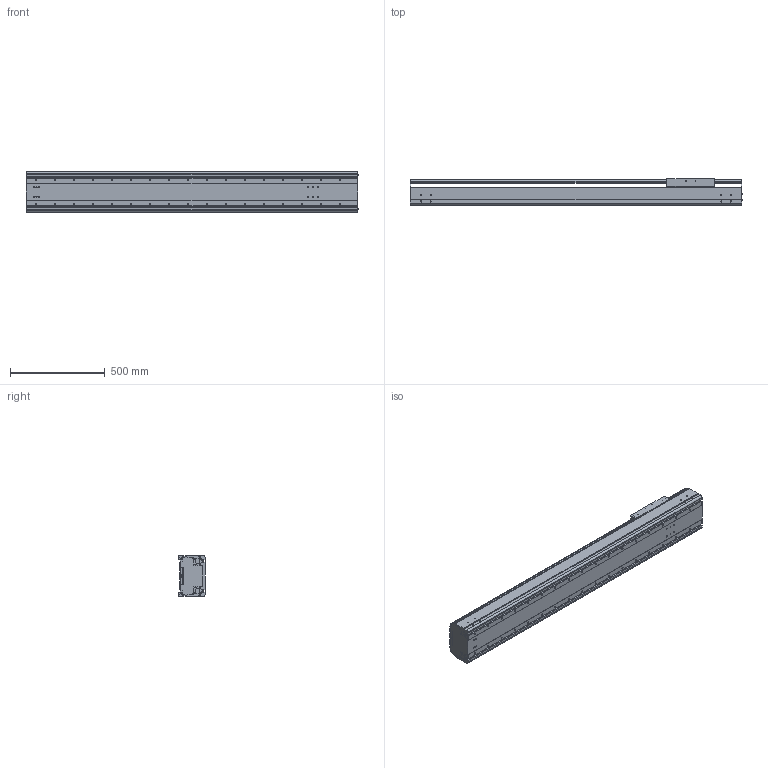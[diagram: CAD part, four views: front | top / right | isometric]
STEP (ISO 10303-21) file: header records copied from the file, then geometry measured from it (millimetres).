
FILE_DESCRIPTION((''),'2;1');
FILE_NAME('BE60G-ST-M_B-D0_IGS_PRT','2017-06-18T',(' '),(''),'PRO/ENGINEER BY PARAMETRIC TECHNOLOGY CORPORATION, 2015030','PRO/ENGINEER BY PARAMETRIC TECHNOLOGY CORPORATION, 2015030','');
FILE_SCHEMA(('CONFIG_CONTROL_DESIGN'));
Length unit declared in the file: millimetre
Products named in the file (1): BE60G-ST-M_B-D0_IGS_PRT
Bounding box: 1747.4 x 140 x 214 mm (x, y, z)
Volume: 13724820.1 mm3; surface area: 3664913.9 mm2
Topology: 2 solids, 158 shells, 1660 faces, 4658 edges, 3062 vertices
Faces by surface type: cylinder 864, plane 628, cone 120, sphere 24, torus 24
Entity records: 55690 total; most frequent: CARTESIAN_POINT 12786, DIRECTION 8996, ORIENTED_EDGE 8460, EDGE_CURVE 4538, AXIS2_PLACEMENT_3D 3367, VERTEX_POINT 3060, VECTOR 2262, LINE 2262
